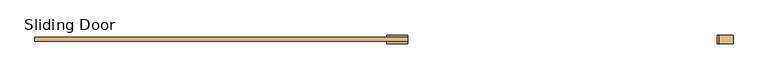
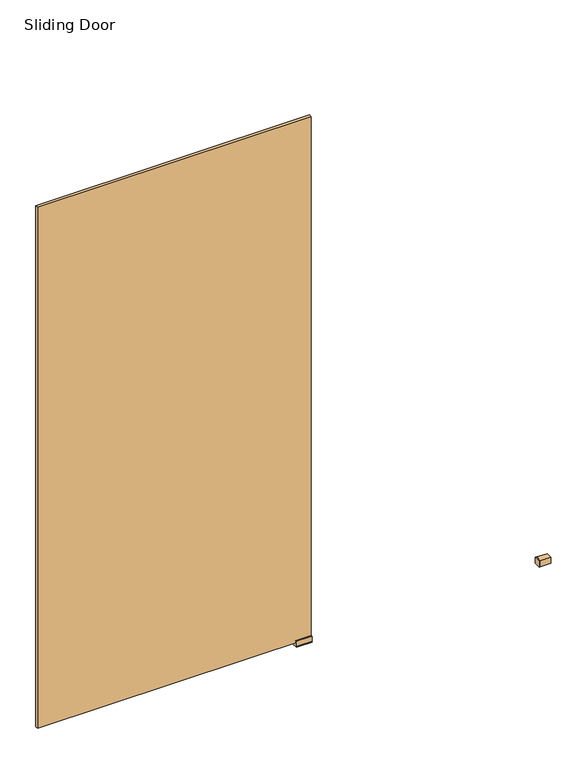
"""IFC4 building model written with IfcOpenShell, lengths in millimetres: door geometry, 2019_EN_Panel_Klein_Nature_Single-Door : Sliding Door."""

from ifc_helpers import new_model, si_unit, frame, origin, origin_with_axes, place, context, project, spatial, polyline, outline, extrude, source, transform, mapped, element, save


def sliding_door_2fb50057(model_context):
    return source(origin(), model_context, "Body", "SweptSolid", [
        extrude(outline(polyline([(-499.9999999, 5.7), (-499.9999999, 17.7), (559.9999999, 17.7), (559.9999999, 5.7), (-499.9999999, 5.7)])), frame((0.0, 0.0, 15.0), z_axis=(0.0, 0.0, 1.0), x_axis=(1.0, 0.0, 0.0)), (0.0, 0.0, 1.0), 2133.1000015),
        extrude(outline(polyline([(1444.9999998, -0.8), (1444.9999998, 24.2), (1484.9999998, 24.2), (1484.9999998, -0.8), (1444.9999998, -0.8)])), origin_with_axes(), (0.0, 0.0, 1.0), 25.0),
        extrude(outline(polyline([(5.7, 25.0), (5.7, 15.0), (17.7, 15.0), (17.7, 25.0), (24.2, 25.0), (24.2, 5.0), (23.2, 5.0), (23.2, 0.0), (0.2, 0.0), (0.2, 5.0), (-0.8, 5.0), (-0.8, 25.0), (5.7, 25.0)])), frame((499.9999999, 0.0, 0.0), z_axis=(1.0, 0.0, 0.0), x_axis=(0.0, 1.0, 0.0)), (0.0, 0.0, 1.0), 60.0),
        extrude(outline(polyline([(1439.9999998, 24.2), (1444.9999998, 24.2), (1444.9999998, -0.8), (1439.9999998, -0.8), (1439.9999998, 24.2)])), origin_with_axes(), (0.0, 0.0, 1.0), 25.0),
    ])


if __name__ == "__main__":
    model = new_model("IFC4")
    model_context = context("Model", 3, world=origin())
    ifc_project = project(units=[si_unit("LENGTHUNIT", "METRE", prefix="MILLI")], contexts=[model_context])
    site = spatial("IfcSite", under=ifc_project)
    building = spatial("IfcBuilding", under=site)
    placement = place(None, origin())
    sliding_door_shape = sliding_door_2fb50057(model_context)
    element("IfcDoor", 1, ObjectType="2019_EN_Panel_Klein_Nature_Single-Door : Sliding Door", at=placement, inside=building, context=model_context, shape_type="MappedRepresentation", body=[
        mapped(sliding_door_shape, transform((0.0, 0.0, 0.0), x_axis=(1.0, 0.0, 0.0), y_axis=(0.0, 1.0, 0.0), z_axis=(0.0, 0.0, 1.0))),
    ])
    save(model, "model.ifc")
